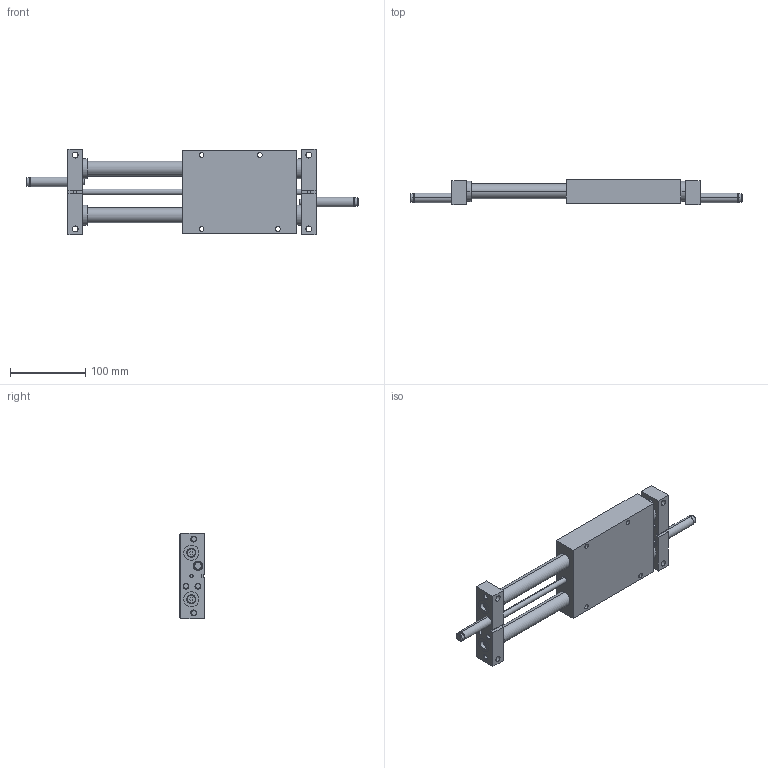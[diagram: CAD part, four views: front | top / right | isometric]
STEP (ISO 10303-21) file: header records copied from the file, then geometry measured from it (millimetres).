
FILE_DESCRIPTION (( 'STEP AP203' ), '1' );
FILE_NAME ('AGS-5 in IN.STEP', '2014-11-06T19:30:27', ( 'setup' ), ( '' ), 'SwSTEP 2.0', 'SolidWorks 2013', '' );
FILE_SCHEMA (( 'CONFIG_CONTROL_DESIGN' ));
Length unit declared in the file: inch
Products named in the file (11): AGS-5 pPD3; AGS-5 BODY; AGS-5 aPD3; AGS-5 r1D3; AGS-5 a1D3; AGS-5 rPD3; AGS-5 in IN; AGS-5 p1D3; AGS-5 RING; AGS-5 a2D3; AGS-5 a3D3
Assembly tree (14 placements, depth 2):
  AGS-5 in IN
    AGS-5 BODY
    AGS-5 r1D3
    AGS-5 p1D3
    AGS-5 RING  x4
    AGS-5 a2D3
    AGS-5 a3D3
    AGS-5 pPD3
    AGS-5 aPD3
    AGS-5 a1D3
    AGS-5 rPD3  x2
Bounding box: 441.96 x 33.35 x 114.3 mm (x, y, z)
Volume: 767662.4 mm3; surface area: 177870.3 mm2
Topology: 14 solids, 14 shells, 332 faces, 752 edges, 466 vertices
Faces by surface type: cylinder 148, plane 98, cone 78, torus 8
Entity records: 9911 total; most frequent: CARTESIAN_POINT 1967, DIRECTION 1510, ORIENTED_EDGE 1268, EDGE_CURVE 634, AXIS2_PLACEMENT_3D 605, VERTEX_POINT 394, EDGE_LOOP 368, CIRCLE 308
